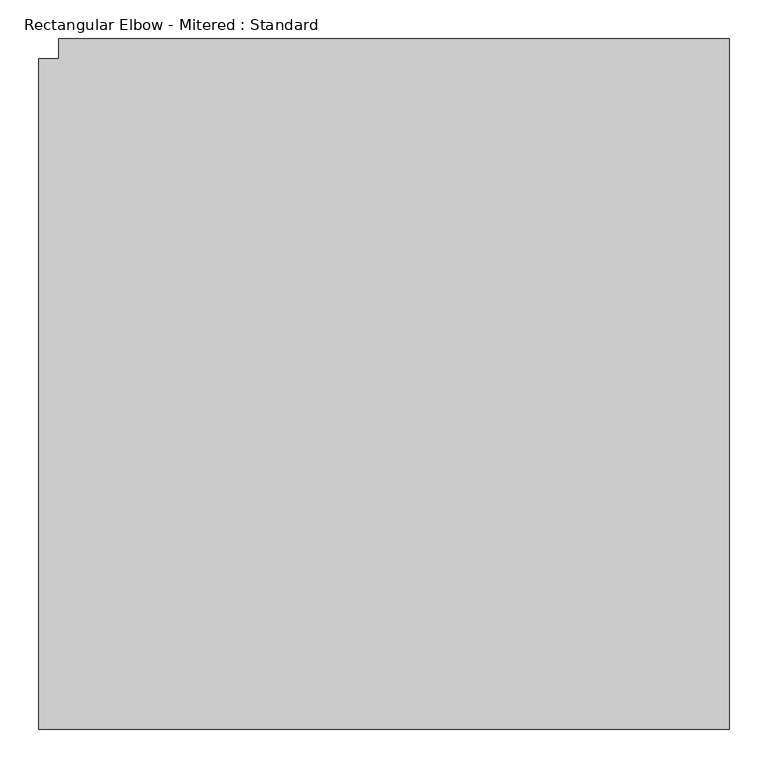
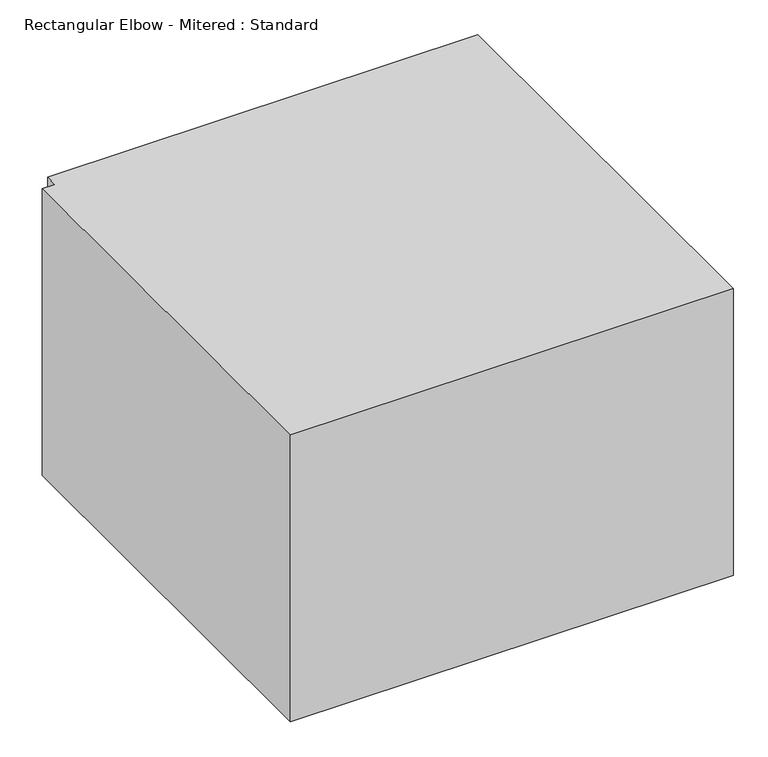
"""IFC4 building model written with IfcOpenShell, lengths in millimetres: duct fitting geometry, Rectangular Elbow - Mitered : Standard."""

from ifc_helpers import new_model, si_unit, frame, origin, place, context, project, spatial, polyline, outline, extrude, source, transform, mapped, element, save


def rectangular_elbow_mitered_standard_6e169d3c(model_context):
    return source(origin(), model_context, "Body", "SweptSolid", [
        extrude(outline(polyline([(-457.2, -431.8), (-457.2, 431.8), (-431.8, 431.8), (-431.8, 457.2), (431.8, 457.2), (431.8, -431.8), (-457.2, -431.8)])), frame((0.0, 0.0, -304.8), z_axis=(0.0, 0.0, 1.0), x_axis=(1.0, 0.0, 0.0)), (0.0, 0.0, 1.0), 609.6),
    ])


if __name__ == "__main__":
    model = new_model("IFC4")
    model_context = context("Model", 3, world=origin())
    ifc_project = project(units=[si_unit("LENGTHUNIT", "METRE", prefix="MILLI")], contexts=[model_context])
    site = spatial("IfcSite", under=ifc_project)
    building = spatial("IfcBuilding", under=site)
    placement = place(None, origin())
    rectangular_elbow_mitered_standard_shape = rectangular_elbow_mitered_standard_6e169d3c(model_context)
    element("IfcDuctFitting", 1, ObjectType="Rectangular Elbow - Mitered : Standard", at=placement, inside=building, context=model_context, shape_type="MappedRepresentation", body=[
        mapped(rectangular_elbow_mitered_standard_shape, transform((0.0, 0.0, 0.0), x_axis=(1.0, 0.0, 0.0), y_axis=(0.0, 1.0, 0.0), z_axis=(0.0, 0.0, 1.0))),
    ])
    save(model, "model.ifc")
